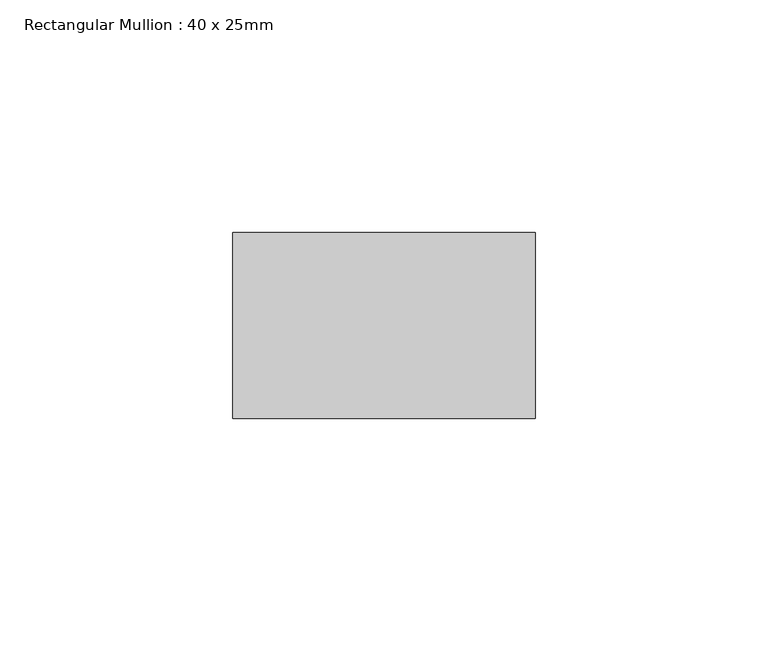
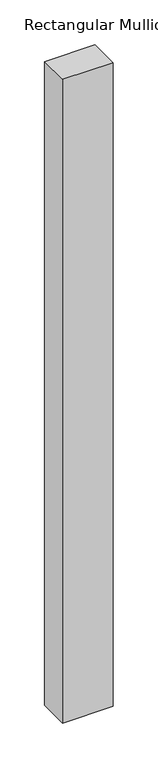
"""IFC4 building model written with IfcOpenShell, lengths in millimetres: member geometry, Rectangular Mullion : 40 x 25mm."""

from ifc_helpers import new_model, si_unit, frame, origin, place, context, project, spatial, polyline, outline, extrude, source, transform, mapped, element, save


def rectangular_mullion_40_x_25mm_b9d55a41(model_context):
    return source(origin(), model_context, "Body", "SweptSolid", [
        extrude(outline(polyline([(0.0, -20.0), (0.0, -60.0), (-65.0, -60.0), (-65.0, -20.0), (0.0, -20.0)])), frame((0.0, 0.0, -875.0), z_axis=(0.0, 0.0, 1.0), x_axis=(1.0, 0.0, 0.0)), (0.0, 0.0, 1.0), 875.0),
    ])


if __name__ == "__main__":
    model = new_model("IFC4")
    model_context = context("Model", 3, world=origin())
    ifc_project = project(units=[si_unit("LENGTHUNIT", "METRE", prefix="MILLI")], contexts=[model_context])
    site = spatial("IfcSite", under=ifc_project)
    building = spatial("IfcBuilding", under=site)
    placement = place(None, origin())
    rectangular_mullion_40_x_25mm_shape = rectangular_mullion_40_x_25mm_b9d55a41(model_context)
    element("IfcMember", 1, ObjectType="Rectangular Mullion : 40 x 25mm", at=placement, inside=building, context=model_context, shape_type="MappedRepresentation", body=[
        mapped(rectangular_mullion_40_x_25mm_shape, transform((0.0, 0.0, 0.0), x_axis=(1.0, 0.0, 0.0), y_axis=(0.0, 1.0, 0.0), z_axis=(0.0, 0.0, 1.0))),
    ])
    save(model, "model.ifc")
